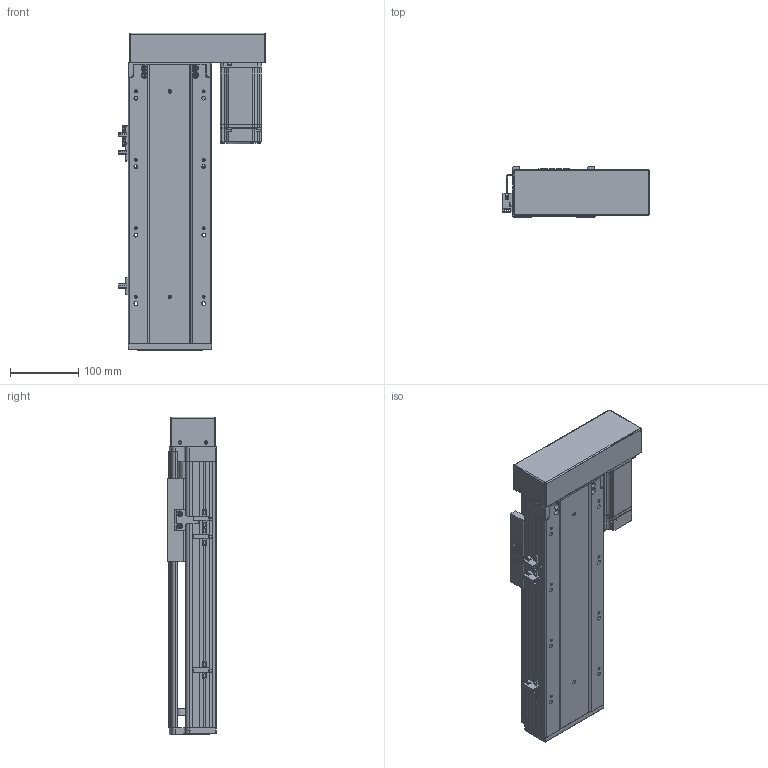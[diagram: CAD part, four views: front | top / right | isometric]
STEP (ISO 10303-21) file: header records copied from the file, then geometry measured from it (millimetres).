
FILE_DESCRIPTION (( 'STEP AP203' ), '1' );
FILE_NAME ('RY120-L1620-300-RK.SLDASM_200.step', '2021-02-22T02:29:32', ( '盈信电脑' ), ( '东莞市道滘镇水果街19号' ), 'SwSTEP 2.0', 'SolidWorks 2012', '' );
FILE_SCHEMA (( 'CONFIG_CONTROL_DESIGN' ));
Products named in the file (14): 侂狟400W侜督萇儂; 15; RY120蛌殏萇儂欶; RY120-L1620-300-RK.SLDASM_200; RY120转拆电端丝杆支撑座; RY120酘殏萇儂假蚾啣; RY120外置感应片(140共用）; 滅袉蝶18-10; RY120綴裔啣; 滅袉蝶18-24; 覜茼ん672; RY120-300-RK蛌殏倰第奻裔啣_200; RY120臏賑輸; RY120-300-RK蛌殏倰第菁釱_200
Assembly tree (16 placements, depth 3):
  RY120-L1620-300-RK.SLDASM_200
    RY120-300-RK蛌殏倰第菁釱_200
    RY120-300-RK蛌殏倰第奻裔啣_200
    RY120臏賑輸
    RY120綴裔啣
    覜茼ん672  x3
    滅袉蝶18-10
    滅袉蝶18-24  x2
    RY120外置感应片(140共用）
    RY120转拆电端丝杆支撑座
    RY120酘殏萇儂假蚾啣
    侂狟400W侜督萇儂
      15
    RY120蛌殏萇儂欶
Bounding box: 214.4 x 73 x 464 mm (x, y, z)
Volume: 1838831.5 mm3; surface area: 620529.6 mm2
Topology: 16 solids, 16 shells, 2226 faces, 6079 edges, 3906 vertices
Faces by surface type: plane 1186, cylinder 766, cone 169, bspline 105
Entity records: 72476 total; most frequent: CARTESIAN_POINT 19775, ORIENTED_EDGE 10934, DIRECTION 10179, EDGE_CURVE 5467, VERTEX_POINT 3574, LINE 3525, VECTOR 3525, AXIS2_PLACEMENT_3D 3327
